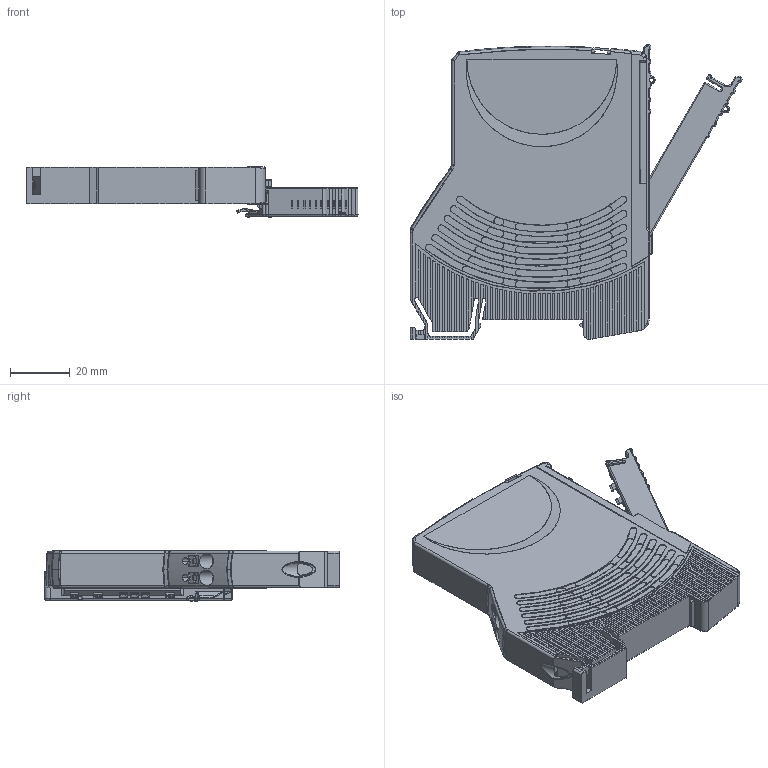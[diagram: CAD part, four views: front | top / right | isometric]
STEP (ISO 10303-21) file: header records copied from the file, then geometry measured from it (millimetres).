
FILE_DESCRIPTION((''),'2;1');
FILE_NAME('1694-PMD2_ASM','2020-04-23T09:50:50',('AKuszpe'),('Rockwell Automation'),'CREO PARAMETRIC BY PTC INC, 2017380','CREO PARAMETRIC BY PTC INC, 2017380','');
FILE_SCHEMA(('AUTOMOTIVE_DESIGN { 1 0 10303 214 1 1 1 1 }'));
Products named in the file (5): 1694-PMD2_MOD; 1694-PMD2_TASTER; 1694-PMD2_BCK; 1694-PMD2_ASM_ASM; 1694-PMD2_ASM
Assembly tree (6 placements, depth 3):
  1694-PMD2_ASM
    1694-PMD2_ASM_ASM
      1694-PMD2_MOD
      1694-PMD2_TASTER  x2
      1694-PMD2_BCK  x2
Bounding box: 110.9 x 98.5 x 16.9 mm (x, y, z)
Surface area: 30374.2 mm2 (no closed solid volume)
Topology: 0 solids, 2599 shells, 2599 faces, 14118 edges, 14106 vertices
Faces by surface type: plane 1512, cylinder 824, torus 107, bspline 95, sphere 30, cone 30, extrusion 1
Entity records: 172923 total; most frequent: CARTESIAN_POINT 40325, DIRECTION 15335, PRESENTATION_STYLE_ASSIGNMENT 13569, STYLED_ITEM 13569, CURVE_STYLE 11490, VERTEX_POINT 11490, ORIENTED_EDGE 11490, EDGE_CURVE 11490
